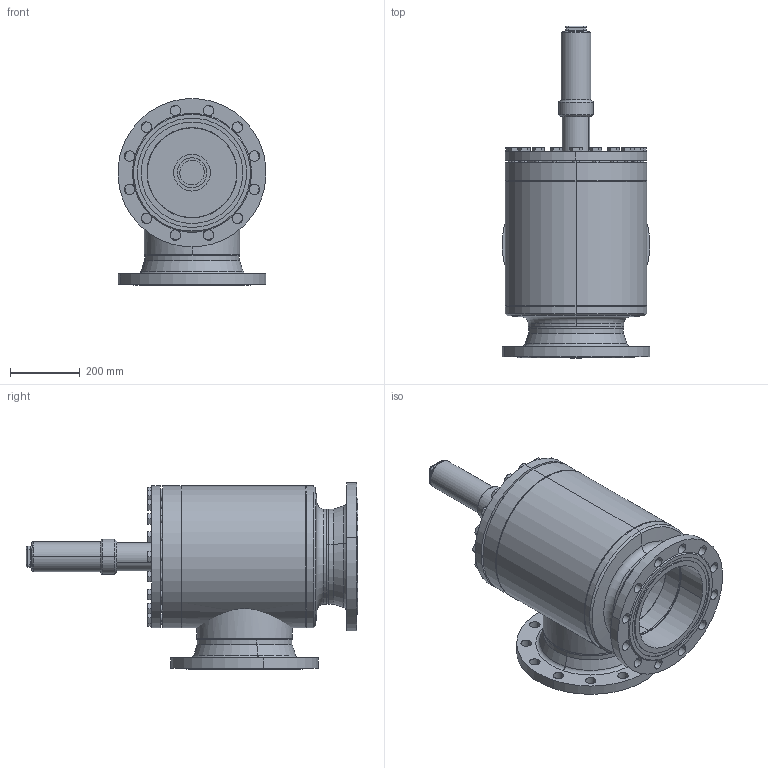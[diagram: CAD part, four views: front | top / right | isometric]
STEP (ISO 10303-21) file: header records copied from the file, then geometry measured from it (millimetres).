
FILE_DESCRIPTION (( 'STEP AP214' ), '1' );
FILE_NAME ('AVR26420C24-DN250_DIN-FL-N_PS25.STEP', '2006-04-28T08:39:49', ( 'Herr Grams' ), ( 'AWP GmbH' ), 'SwSTEP 2.0', 'SolidWorks 2002296', '' );
FILE_SCHEMA (( 'AUTOMOTIVE_DESIGN' ));
Length unit declared in the file: millimetre
Products named in the file (18): AVR26420C24-DN250_DIN-FL-N_PS25; AVR26300B24_Deck+Schr-DN250_Standard; Deckel-kpl26300-DN250_Standard; Scheibe f Deckel26300-DN250_Standard; Buchse f Deckel26300-DN250_Standard; bead-deck263-250_Standard; Sechskantschraube-DIN933_M20x 60; Kappe16402_DN200-350_Standard; Gehäuse-kpl26420-DN250_DIN_PS25_Standard; Boden26300-DN250_Standard; Kopfstück26300-DN250_Standard; Gehäuse26300-DN250_Standard; Rohrstutzen-A26300-DN250_R1_Standard; Flansch-DIN2634-Nut_PS25_DIN-Flansch-DN250_PS25-Nut; bead-DN250-4_Standard; bead-DN250-1_Standard; bead-DN250-2_Standard; bead-DN250-3_Standard
Assembly tree (37 placements, depth 4):
  AVR26420C24-DN250_DIN-FL-N_PS25
    Gehäuse-kpl26420-DN250_DIN_PS25_Standard
      Kopfstück26300-DN250_Standard
      Flansch-DIN2634-Nut_PS25_DIN-Flansch-DN250_PS25-Nut  x2
      Gehäuse26300-DN250_Standard
      bead-DN250-4_Standard
      bead-DN250-3_Standard
      Boden26300-DN250_Standard
      Rohrstutzen-A26300-DN250_R1_Standard
      bead-DN250-1_Standard
      bead-DN250-2_Standard
    Kappe16402_DN200-350_Standard
    AVR26300B24_Deck+Schr-DN250_Standard
      Sechskantschraube-DIN933_M20x 60  x20
      Deckel-kpl26300-DN250_Standard
        bead-deck263-250_Standard
        Buchse f Deckel26300-DN250_Standard
        Scheibe f Deckel26300-DN250_Standard
Bounding box: 423.38 x 951 x 533.75 mm (x, y, z)
Volume: 28435077.8 mm3; surface area: 3171826.6 mm2
Topology: 34 solids, 34 shells, 814 faces, 1846 edges, 1114 vertices
Faces by surface type: cone 316, plane 237, cylinder 217, bspline 28, torus 16
Entity records: 22653 total; most frequent: CARTESIAN_POINT 14730, DIRECTION 1566, ORIENTED_EDGE 1408, EDGE_CURVE 704, AXIS2_PLACEMENT_3D 684, VERTEX_POINT 444, EDGE_LOOP 382, CIRCLE 378
